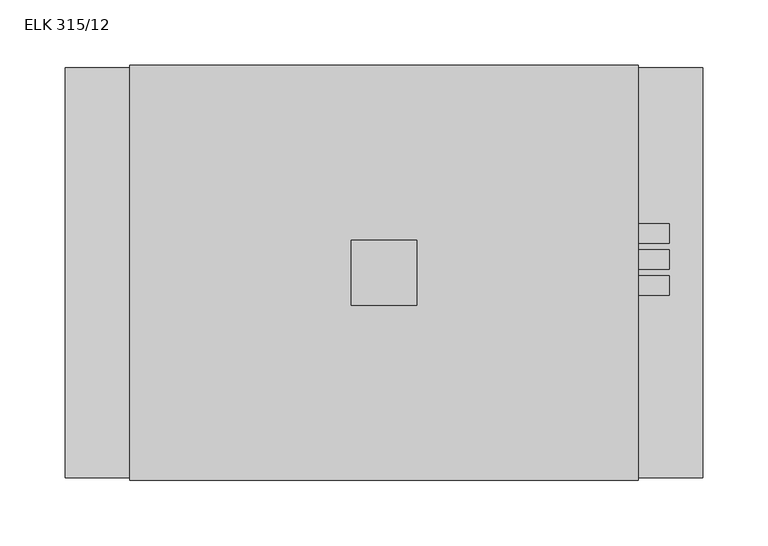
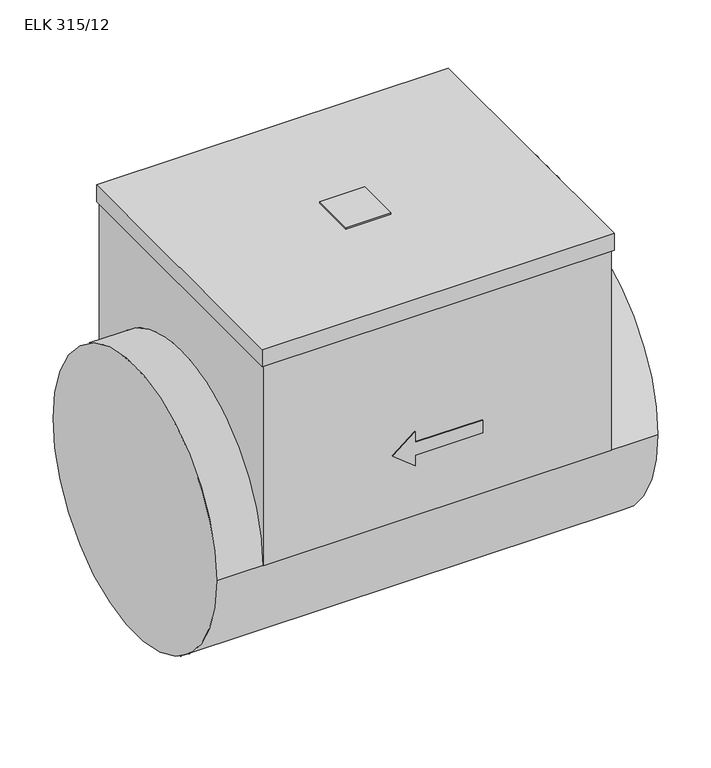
"""IFC4 building model written with IfcOpenShell, lengths in millimetres: proxy geometry, KORF_Нагреватель_Электрический_Круглый_ELK : ELK 315/12."""

from ifc_helpers import new_model, si_unit, point, frame, frame_2d, origin, place, context, project, spatial, polyline, circle_curve, trimmed, segment, composite_curve, outline, extrude, source, transform, mapped, element, save
from ifc_brep_helpers import plane_surface, cylinder_surface, advanced_brep


def elk_315_12_936a433f(model_context):
    return source(origin(), model_context, "Body", "SolidModel", [
        extrude(outline(polyline([(270.0, 25.0), (270.0, -25.0), (220.0, -25.0), (220.0, 25.0), (270.0, 25.0)])), frame((0.0, 0.0, 255.5), z_axis=(0.0, 0.0, 1.0), x_axis=(1.0, 0.0, 0.0)), (0.0, 0.0, 1.0), 2.0),
        extrude(outline(composite_curve([segment(trimmed(circle_curve(frame_2d((-10.0, 215.5)), 7.5), [point((-17.5, 215.5))], [point((-2.5, 215.5))], False, "CARTESIAN"), True, "CONTINUOUS"), segment(trimmed(circle_curve(frame_2d((-10.0, 215.5)), 7.5), [point((-2.5, 215.5))], [point((-17.5, 215.5))], False, "CARTESIAN"), True, "CONTINUOUS")], self_intersect=False)), frame((438.5, 0.0, 0.0), z_axis=(1.0, 0.0, 0.0), x_axis=(0.0, 1.0, 0.0)), (0.0, 0.0, 1.0), 25.75),
        extrude(outline(composite_curve([segment(trimmed(circle_curve(frame_2d((10.0, 215.5)), 7.5), [point((2.5, 215.5))], [point((17.5, 215.5))], False, "CARTESIAN"), True, "CONTINUOUS"), segment(trimmed(circle_curve(frame_2d((10.0, 215.5)), 7.5), [point((17.5, 215.5))], [point((2.5, 215.5))], False, "CARTESIAN"), True, "CONTINUOUS")], self_intersect=False)), frame((438.5, 0.0, 0.0), z_axis=(1.0, 0.0, 0.0), x_axis=(0.0, 1.0, 0.0)), (0.0, 0.0, 1.0), 25.75),
        extrude(outline(composite_curve([segment(trimmed(circle_curve(frame_2d((30.0, 215.5)), 7.5), [point((22.5, 215.5))], [point((37.5, 215.5))], False, "CARTESIAN"), True, "CONTINUOUS"), segment(trimmed(circle_curve(frame_2d((30.0, 215.5)), 7.5), [point((37.5, 215.5))], [point((22.5, 215.5))], False, "CARTESIAN"), True, "CONTINUOUS")], self_intersect=False)), frame((438.5, 0.0, 0.0), z_axis=(1.0, 0.0, 0.0), x_axis=(0.0, 1.0, 0.0)), (0.0, 0.0, 1.0), 25.75),
        advanced_brep(
        [(440.5, 159.5, 235.5), (440.5, -159.5, 235.5), (49.5, -159.5, 235.5), (49.5, 159.5, 235.5), (438.5, 157.5, 235.5), (51.5, 157.5, 235.5), (51.5, -157.5, 235.5), (438.5, -157.5, 235.5), (440.5, 159.5, 255.5), (49.5, 159.5, 255.5), (49.5, -159.5, 255.5), (440.5, -159.5, 255.5), (438.5, 157.5, 0.0), (51.5, 157.5, 0.0), (220.0, 157.5, 98.75), (195.0, 157.5, 78.75), (220.0, 157.5, 58.75), (220.0, 157.5, 71.25), (295.0, 157.5, 71.25), (295.0, 157.5, 86.25), (220.0, 157.5, 86.25), (51.5, -157.5, 0.0), (438.5, -157.5, 0.0), (195.0, -157.5, 78.75), (220.0, -157.5, 98.75), (220.0, -157.5, 86.25), (295.0, -157.5, 86.25), (295.0, -157.5, 71.25), (220.0, -157.5, 71.25), (220.0, -157.5, 58.75), (490.0, -157.5, 0.0), (490.0, 157.5, 0.0), (0.0, -157.5, 0.0), (0.0, 157.5, 0.0), (220.0, -158.5, 98.75), (195.0, -158.5, 78.75), (220.0, -158.5, 58.75), (220.0, -158.5, 71.25), (295.0, -158.5, 71.25), (295.0, -158.5, 86.25), (220.0, -158.5, 86.25), (220.0, 158.5, 98.75), (220.0, 158.5, 86.25), (295.0, 158.5, 86.25), (295.0, 158.5, 71.25), (220.0, 158.5, 71.25), (220.0, 158.5, 58.75), (195.0, 158.5, 78.75)],
        [
            (0, 1),
            (1, 2),
            (2, 3),
            (3, 0),
            (4, 5),
            (5, 6),
            (6, 7),
            (7, 4),
            (8, 9),
            (9, 10),
            (10, 11),
            (11, 8),
            (3, 9),
            (8, 0),
            (2, 10),
            (1, 11),
            (4, 12),
            (12, 13),
            (13, 5),
            (14, 15),
            (15, 16),
            (16, 17),
            (17, 18),
            (18, 19),
            (19, 20),
            (20, 14),
            (13, 21, circle_curve(frame((51.5, 0.0, 0.0), z_axis=(1.0, 0.0, 0.0), x_axis=(0.0, 1.0, 0.0)), 157.5)),
            (21, 6),
            (21, 22),
            (22, 7),
            (23, 24),
            (24, 25),
            (25, 26),
            (26, 27),
            (27, 28),
            (28, 29),
            (29, 23),
            (22, 12, circle_curve(frame((438.5, 0.0, 0.0), z_axis=(-1.0, 0.0, 0.0), x_axis=(0.0, 1.0, 0.0)), 157.5)),
            (30, 31, circle_curve(frame((490.0, 0.0, 0.0), z_axis=(1.0, 0.0, 0.0), x_axis=(0.0, 1.0, 0.0)), 157.5)),
            (31, 30, circle_curve(frame((490.0, 0.0, 0.0), z_axis=(1.0, 0.0, 0.0), x_axis=(0.0, 1.0, 0.0)), 157.5)),
            (32, 33, circle_curve(frame((0.0, 0.0, 0.0), z_axis=(-1.0, 0.0, 0.0), x_axis=(0.0, 1.0, 0.0)), 157.5)),
            (33, 32, circle_curve(frame((0.0, 0.0, 0.0), z_axis=(-1.0, 0.0, 0.0), x_axis=(0.0, 1.0, 0.0)), 157.5)),
            (30, 22),
            (21, 32),
            (33, 13),
            (12, 31),
            (34, 35),
            (35, 36),
            (36, 37),
            (37, 38),
            (38, 39),
            (39, 40),
            (40, 34),
            (41, 42),
            (42, 43),
            (43, 44),
            (44, 45),
            (45, 46),
            (46, 47),
            (47, 41),
            (34, 24),
            (23, 35),
            (47, 15),
            (14, 41),
            (29, 36),
            (46, 16),
            (28, 37),
            (45, 17),
            (27, 38),
            (44, 18),
            (26, 39),
            (43, 19),
            (25, 40),
            (42, 20),
        ],
        [
            plane_surface(frame((49.5, 159.5, 235.5), z_axis=(0.0, 0.0, -1.0), x_axis=(1.0, 0.0, 0.0))),
            plane_surface(frame((49.5, 159.5, 255.5), z_axis=(0.0, 0.0, 1.0), x_axis=(-1.0, 0.0, 0.0))),
            plane_surface(frame((440.5, 159.5, 255.5), z_axis=(0.0, 1.0, 0.0), x_axis=(0.0, 0.0, -1.0))),
            plane_surface(frame((49.5, 159.5, 255.5), z_axis=(-1.0, 0.0, 0.0), x_axis=(0.0, 0.0, -1.0))),
            plane_surface(frame((49.5, -159.5, 255.5), z_axis=(0.0, -1.0, 0.0), x_axis=(0.0, 0.0, -1.0))),
            plane_surface(frame((440.5, -159.5, 255.5), z_axis=(1.0, 0.0, 0.0), x_axis=(0.0, 0.0, -1.0))),
            plane_surface(frame((438.5, 157.5, 255.5), z_axis=(0.0, 1.0, 0.0), x_axis=(0.0, 0.0, -1.0))),
            plane_surface(frame((51.5, 157.5, 255.5), z_axis=(-1.0, 0.0, 0.0), x_axis=(0.0, 0.0, -1.0))),
            plane_surface(frame((51.5, -157.5, 255.5), z_axis=(0.0, -1.0, 0.0), x_axis=(0.0, 0.0, -1.0))),
            plane_surface(frame((438.5, -157.5, 255.5), z_axis=(1.0, 0.0, 0.0), x_axis=(0.0, 0.0, -1.0))),
            plane_surface(frame((490.0, 157.5, 0.0), z_axis=(1.0, 0.0, 0.0), x_axis=(0.0, 0.0, 1.0))),
            plane_surface(frame((0.0, 157.5, 0.0), z_axis=(-1.0, 0.0, 0.0), x_axis=(0.0, 0.0, -1.0))),
            cylinder_surface(frame((0.0, 0.0, 0.0), z_axis=(1.0, 0.0, 0.0), x_axis=(0.0, 1.0, 0.0)), 157.5),
            plane_surface(frame((195.0, -158.5, 78.75), z_axis=(0.0, -1.0000000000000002, 0.0), x_axis=(-0.7808688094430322, 0.0, -0.6246950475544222))),
            plane_surface(frame((195.0, 158.5, 78.75), z_axis=(0.0, 1.0000000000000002, 0.0), x_axis=(0.7808688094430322, 0.0, 0.6246950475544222))),
            plane_surface(frame((220.0, -158.5, 98.75), z_axis=(-0.6246950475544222, 0.0, 0.7808688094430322), x_axis=(0.0, 1.0, 0.0))),
            plane_surface(frame((195.0, -158.5, 78.75), z_axis=(-0.6246950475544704, 0.0, -0.7808688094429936), x_axis=(0.0, 1.0, 0.0))),
            plane_surface(frame((220.0, -158.5, 58.75), z_axis=(1.0, 0.0, 0.0), x_axis=(0.0, 1.0, 0.0))),
            plane_surface(frame((220.0, -158.5, 71.25), z_axis=(0.0, 0.0, -1.0), x_axis=(0.0, 1.0, 0.0))),
            plane_surface(frame((295.0, -158.5, 71.25), z_axis=(1.0, 0.0, 0.0), x_axis=(0.0, 1.0, 0.0))),
            plane_surface(frame((295.0, -158.5, 86.25), z_axis=(0.0, 0.0, 1.0), x_axis=(0.0, 1.0, 0.0))),
            plane_surface(frame((220.0, -158.5, 86.25), z_axis=(1.0, 0.0, 0.0), x_axis=(0.0, 1.0, 0.0))),
        ],
        [
            (0, [[1, 2, 3, 4], [5, 6, 7, 8]]),
            (1, [[9, 10, 11, 12]]),
            (2, [[-4, 13, -9, 14]]),
            (3, [[-3, 15, -10, -13]]),
            (4, [[-2, 16, -11, -15]]),
            (5, [[-1, -14, -12, -16]]),
            (6, [[17, 18, 19, -5], [20, 21, 22, 23, 24, 25, 26]]),
            (7, [[-19, 27, 28, -6]]),
            (8, [[-28, 29, 30, -7], [31, 32, 33, 34, 35, 36, 37]]),
            (9, [[-17, -8, -30, 38]]),
            (10, [[39, 40]]),
            (11, [[41, 42]]),
            (12, [[-39, 43, -29, 44, -42, 45, -18, 46]]),
            (12, [[-40, -46, -38, -43]]),
            (12, [[-41, -44, -27, -45]]),
            (13, [[47, 48, 49, 50, 51, 52, 53]]),
            (14, [[54, 55, 56, 57, 58, 59, 60]]),
            (15, [[-47, 61, -31, 62]]),
            (15, [[-60, 63, -20, 64]]),
            (16, [[-48, -62, -37, 65]]),
            (16, [[-59, 66, -21, -63]]),
            (17, [[-49, -65, -36, 67]]),
            (17, [[-58, 68, -22, -66]]),
            (18, [[-50, -67, -35, 69]]),
            (18, [[-57, 70, -23, -68]]),
            (19, [[-51, -69, -34, 71]]),
            (19, [[-56, 72, -24, -70]]),
            (20, [[-52, -71, -33, 73]]),
            (20, [[-55, 74, -25, -72]]),
            (21, [[-53, -73, -32, -61]]),
            (21, [[-54, -64, -26, -74]]),
        ],
    ),
    ])


if __name__ == "__main__":
    model = new_model("IFC4")
    model_context = context("Model", 3, world=origin())
    ifc_project = project(units=[si_unit("LENGTHUNIT", "METRE", prefix="MILLI")], contexts=[model_context])
    site = spatial("IfcSite", under=ifc_project)
    building = spatial("IfcBuilding", under=site)
    placement = place(None, origin())
    elk_315_12_shape = elk_315_12_936a433f(model_context)
    element("IfcBuildingElementProxy", 1, Name="KORF_Нагреватель_Электрический_Круглый_ELK : ELK 315/12", ObjectType="KORF_Нагреватель_Электрический_Круглый_ELK : ELK 315/12", at=placement, inside=building, context=model_context, shape_type="MappedRepresentation", body=[
        mapped(elk_315_12_shape, transform((0.0, 0.0, 0.0), x_axis=(1.0, 0.0, 0.0), y_axis=(0.0, 1.0, 0.0), z_axis=(0.0, 0.0, 1.0))),
    ])
    save(model, "model.ifc")
